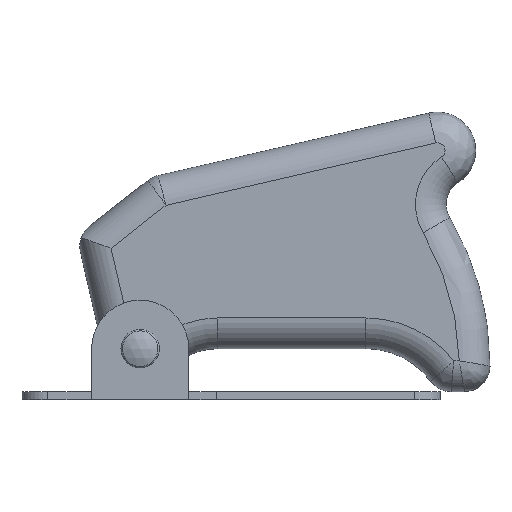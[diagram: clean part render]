
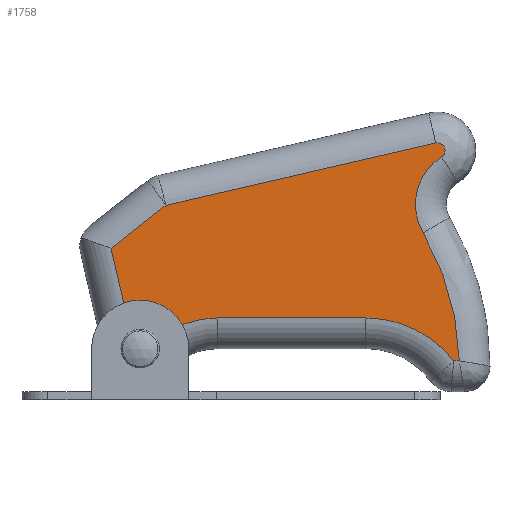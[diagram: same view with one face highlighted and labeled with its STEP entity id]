
A CAD part, left-side view. The second image highlights one B-rep face of the part: STEP entity #1758.
In plain terms, the highlighted planar face has unit normal (-1, 0, 0).
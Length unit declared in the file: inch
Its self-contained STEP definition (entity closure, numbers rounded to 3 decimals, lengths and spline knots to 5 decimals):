
#126=PLANE('',#1949);
#196=FACE_OUTER_BOUND('',#311,.T.);
#311=EDGE_LOOP('',(#1448,#1449,#1450,#1451,#1452,#1453,#1454,#1455,#1456,
#1457,#1458));
#473=LINE('',#3082,#607);
#474=LINE('',#3086,#608);
#475=LINE('',#3090,#609);
#476=LINE('',#3095,#610);
#477=LINE('',#3096,#611);
#607=VECTOR('',#2371,39.37008);
#608=VECTOR('',#2374,39.37008);
#609=VECTOR('',#2377,39.37008);
#610=VECTOR('',#2382,39.37008);
#611=VECTOR('',#2383,39.37008);
#668=CIRCLE('',#1913,0.03);
#678=CIRCLE('',#1927,0.1425);
#690=CIRCLE('',#1950,0.37);
#691=CIRCLE('',#1951,0.435);
#692=CIRCLE('',#1952,1.03);
#693=CIRCLE('',#1953,0.22);
#799=VERTEX_POINT('',#2818);
#800=VERTEX_POINT('',#2820);
#818=VERTEX_POINT('',#2909);
#819=VERTEX_POINT('',#2922);
#853=VERTEX_POINT('',#3081);
#854=VERTEX_POINT('',#3083);
#855=VERTEX_POINT('',#3085);
#856=VERTEX_POINT('',#3087);
#857=VERTEX_POINT('',#3089);
#858=VERTEX_POINT('',#3091);
#859=VERTEX_POINT('',#3094);
#997=EDGE_CURVE('',#800,#799,#668,.T.);
#1021=EDGE_CURVE('',#819,#818,#678,.T.);
#1068=EDGE_CURVE('',#853,#819,#473,.T.);
#1069=EDGE_CURVE('',#818,#854,#690,.T.);
#1070=EDGE_CURVE('',#854,#855,#474,.T.);
#1071=EDGE_CURVE('',#855,#856,#691,.T.);
#1072=EDGE_CURVE('',#856,#857,#475,.T.);
#1073=EDGE_CURVE('',#857,#858,#692,.T.);
#1074=EDGE_CURVE('',#858,#800,#693,.T.);
#1075=EDGE_CURVE('',#799,#859,#476,.T.);
#1076=EDGE_CURVE('',#859,#853,#477,.T.);
#1448=ORIENTED_EDGE('',*,*,#1068,.T.);
#1449=ORIENTED_EDGE('',*,*,#1021,.T.);
#1450=ORIENTED_EDGE('',*,*,#1069,.T.);
#1451=ORIENTED_EDGE('',*,*,#1070,.T.);
#1452=ORIENTED_EDGE('',*,*,#1071,.T.);
#1453=ORIENTED_EDGE('',*,*,#1072,.T.);
#1454=ORIENTED_EDGE('',*,*,#1073,.T.);
#1455=ORIENTED_EDGE('',*,*,#1074,.T.);
#1456=ORIENTED_EDGE('',*,*,#997,.T.);
#1457=ORIENTED_EDGE('',*,*,#1075,.T.);
#1458=ORIENTED_EDGE('',*,*,#1076,.T.);
#1758=ADVANCED_FACE('',(#196),#126,.T.);
#1913=AXIS2_PLACEMENT_3D('',#2821,#2262,#2263);
#1927=AXIS2_PLACEMENT_3D('',#2923,#2298,#2299);
#1949=AXIS2_PLACEMENT_3D('',#3080,#2369,#2370);
#1950=AXIS2_PLACEMENT_3D('',#3084,#2372,#2373);
#1951=AXIS2_PLACEMENT_3D('',#3088,#2375,#2376);
#1952=AXIS2_PLACEMENT_3D('',#3092,#2378,#2379);
#1953=AXIS2_PLACEMENT_3D('',#3093,#2380,#2381);
#2262=DIRECTION('center_axis',(-1.,0.,0.));
#2263=DIRECTION('ref_axis',(0.,0.,1.));
#2298=DIRECTION('center_axis',(1.,0.,0.));
#2299=DIRECTION('ref_axis',(0.,0.,1.));
#2369=DIRECTION('center_axis',(-1.,0.,0.));
#2370=DIRECTION('ref_axis',(0.,0.,1.));
#2371=DIRECTION('',(0.,-0.225,-0.974));
#2372=DIRECTION('center_axis',(1.,0.,0.));
#2373=DIRECTION('ref_axis',(0.,0.,1.));
#2374=DIRECTION('',(0.,-1.,0.));
#2375=DIRECTION('center_axis',(1.,0.,0.));
#2376=DIRECTION('ref_axis',(0.,0.,1.));
#2377=DIRECTION('',(0.,-1.,0.));
#2378=DIRECTION('center_axis',(-1.,0.,0.));
#2379=DIRECTION('ref_axis',(0.,0.,1.));
#2380=DIRECTION('center_axis',(1.,0.,0.));
#2381=DIRECTION('ref_axis',(0.,0.,1.));
#2382=DIRECTION('',(0.,0.974,-0.225));
#2383=DIRECTION('',(0.,0.788,-0.616));
#2818=CARTESIAN_POINT('',(-0.285,-0.55557,1.00423));
#2820=CARTESIAN_POINT('',(-0.285,-0.57841,0.94968));
#2821=CARTESIAN_POINT('Origin',(-0.285,-0.56232,0.975));
#2909=CARTESIAN_POINT('',(-0.285,0.47769,0.27311));
#2922=CARTESIAN_POINT('',(-0.285,0.65358,0.33204));
#2923=CARTESIAN_POINT('Origin',(-0.285,0.6,0.2));
#3080=CARTESIAN_POINT('Origin',(-0.285,-0.69644,0.76403));
#3081=CARTESIAN_POINT('',(-0.285,0.71379,0.59284));
#3082=CARTESIAN_POINT('',(-0.285,0.62192,0.19494));
#3083=CARTESIAN_POINT('',(-0.285,0.29742,0.32));
#3084=CARTESIAN_POINT('Origin',(-0.285,0.29742,-0.05));
#3085=CARTESIAN_POINT('',(-0.285,-0.28258,0.32));
#3086=CARTESIAN_POINT('',(-0.285,-0.28258,0.32));
#3087=CARTESIAN_POINT('',(-0.285,-0.626,0.152));
#3088=CARTESIAN_POINT('Origin',(-0.285,-0.28258,-0.115));
#3089=CARTESIAN_POINT('',(-0.285,-0.64781,0.152));
#3090=CARTESIAN_POINT('',(-0.285,-0.668,0.152));
#3091=CARTESIAN_POINT('',(-0.285,-0.50664,0.65279));
#3092=CARTESIAN_POINT('Origin',(-0.285,0.382,0.132));
#3093=CARTESIAN_POINT('Origin',(-0.285,-0.69644,0.76403));
#3094=CARTESIAN_POINT('',(-0.285,0.4988,0.76081));
#3095=CARTESIAN_POINT('',(-0.285,0.50312,0.75981));
#3096=CARTESIAN_POINT('',(-0.285,0.72383,0.585));
